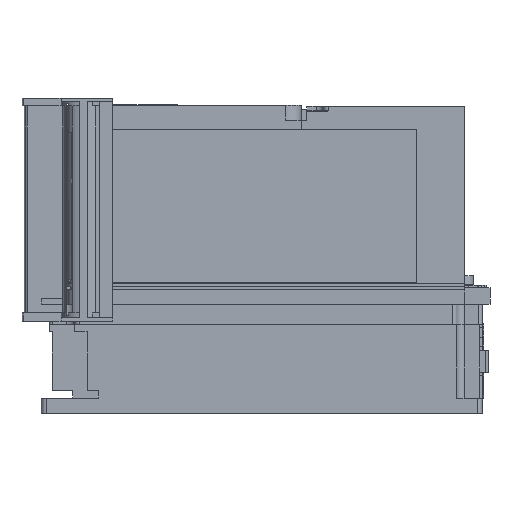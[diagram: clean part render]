
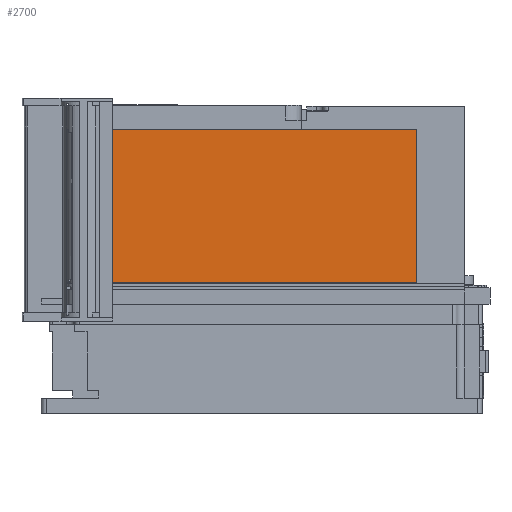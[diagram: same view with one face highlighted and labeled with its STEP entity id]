
A CAD part, left-side view. The second image highlights one B-rep face of the part: STEP entity #2700.
In plain terms, the highlighted planar face has unit normal (-1, 0, 0).
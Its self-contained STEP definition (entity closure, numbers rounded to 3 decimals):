
#2700=ADVANCED_FACE('',(#8571),#8572,.T.);
#8571=FACE_OUTER_BOUND('',#16376,.T.);
#8572=PLANE('',#16377);
#16376=EDGE_LOOP('',(#40847,#40848,#40849,#40850));
#16377=AXIS2_PLACEMENT_3D('',#40851,#40852,#40853);
#40847=ORIENTED_EDGE('',*,*,#53761,.F.);
#40848=ORIENTED_EDGE('',*,*,#53762,.F.);
#40849=ORIENTED_EDGE('',*,*,#53763,.T.);
#40850=ORIENTED_EDGE('',*,*,#53743,.T.);
#40851=CARTESIAN_POINT('',(-65.,142.0,83.0));
#40852=DIRECTION('',(-1.0,0.0,0.0));
#40853=DIRECTION('',(0.0,0.0,1.0));
#53743=EDGE_CURVE('',#67339,#67337,#67340,.T.);
#53761=EDGE_CURVE('',#67370,#67337,#67372,.T.);
#53762=EDGE_CURVE('',#67373,#67370,#67374,.T.);
#53763=EDGE_CURVE('',#67373,#67339,#67375,.T.);
#67337=VERTEX_POINT('',#91634);
#67339=VERTEX_POINT('',#91636);
#67340=LINE('',#91637,#91638);
#67370=VERTEX_POINT('',#91679);
#67372=LINE('',#91682,#91683);
#67373=VERTEX_POINT('',#91684);
#67374=LINE('',#91685,#91686);
#67375=LINE('',#91687,#91688);
#91634=CARTESIAN_POINT('',(-65.,116.0,83.0));
#91636=CARTESIAN_POINT('',(-65.,116.0,179.8));
#91637=CARTESIAN_POINT('',(-65.,116.0,179.8));
#91638=VECTOR('',#105619,96.8);
#91679=CARTESIAN_POINT('',(-65.,-95.5,83.0));
#91682=CARTESIAN_POINT('',(-65.,-95.5,83.0));
#91683=VECTOR('',#105647,211.5);
#91684=CARTESIAN_POINT('',(-65.,-95.5,179.8));
#91685=CARTESIAN_POINT('',(-65.,-95.5,179.8));
#91686=VECTOR('',#105648,96.8);
#91687=CARTESIAN_POINT('',(-65.,-95.5,179.8));
#91688=VECTOR('',#105649,211.5);
#105619=DIRECTION('',(0.0,0.0,-1.0));
#105647=DIRECTION('',(0.0,1.0,0.0));
#105648=DIRECTION('',(0.0,0.0,-1.0));
#105649=DIRECTION('',(0.0,1.0,0.0));
